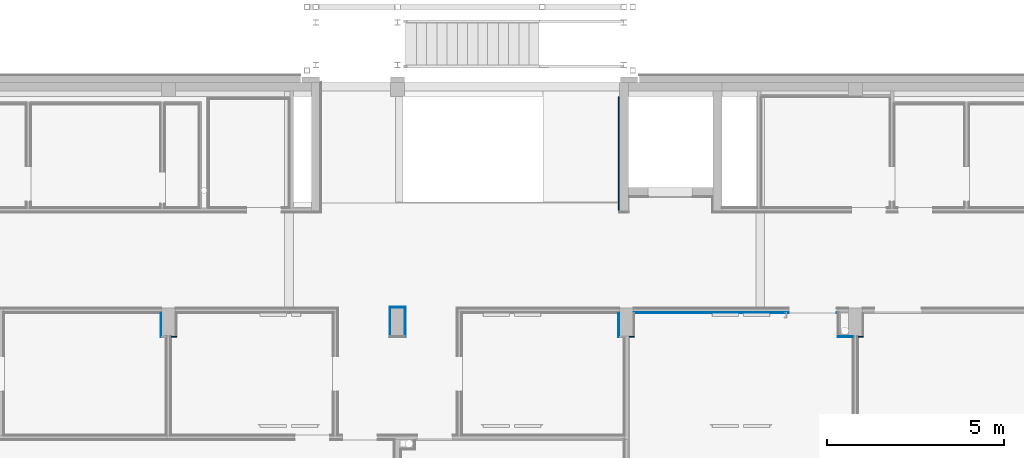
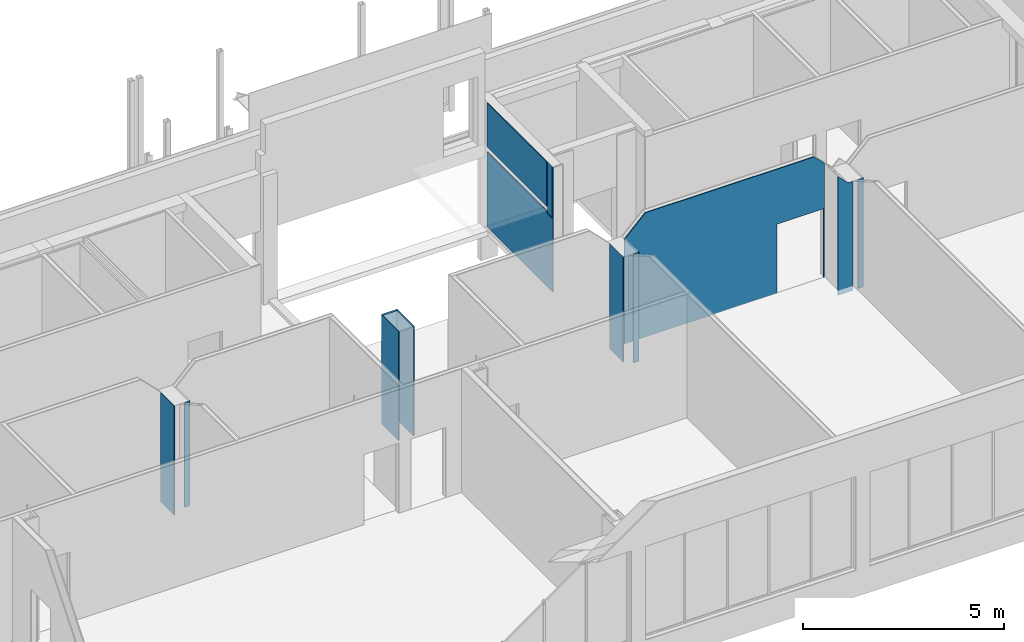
# One storey, part 29 of 29: 11 walls.
"""IFC2X3 building model written with IfcOpenShell, lengths in centimetres."""

from ifc_helpers import new_model, entity, si_unit, converted_unit, derived_unit, direction, frame, origin, place, context, subcontext, project, spatial, faceted_brep, material, layer, layer_set, type_object, element, save


model = new_model("IFC2X3")

# Units and contexts
model_context = context("Model", 3, precision=0.001, world=origin(), true_north=direction((6.12303176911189e-17, 1.0)))
body_context = subcontext(model_context, "Body", "Model", "MODEL_VIEW")
ifc_project = project(units=[si_unit("LENGTHUNIT", "METRE", prefix="CENTI"), si_unit("AREAUNIT", "SQUARE_METRE"), si_unit("VOLUMEUNIT", "CUBIC_METRE"), converted_unit("PLANEANGLEUNIT", "DEGREE", entity("IfcRatioMeasure", 0.0174532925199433), si_unit("PLANEANGLEUNIT", "RADIAN"), dimensions=[0, 0, 0, 0, 0, 0, 0]), si_unit("MASSUNIT", "GRAM", prefix="KILO"), derived_unit("MASSDENSITYUNIT", [(si_unit("MASSUNIT", "GRAM", prefix="KILO"), 1), (si_unit("LENGTHUNIT", "METRE"), -3)]), derived_unit("MOMENTOFINERTIAUNIT", [(si_unit("LENGTHUNIT", "METRE"), 4)]), si_unit("TIMEUNIT", "SECOND"), si_unit("FREQUENCYUNIT", "HERTZ"), si_unit("THERMODYNAMICTEMPERATUREUNIT", "DEGREE_CELSIUS"), derived_unit("THERMALTRANSMITTANCEUNIT", [(si_unit("MASSUNIT", "GRAM", prefix="KILO"), 1), (si_unit("THERMODYNAMICTEMPERATUREUNIT", "KELVIN"), -1), (si_unit("TIMEUNIT", "SECOND"), -3)]), derived_unit("VOLUMETRICFLOWRATEUNIT", [(si_unit("LENGTHUNIT", "METRE"), 3), (si_unit("TIMEUNIT", "SECOND"), -1)]), si_unit("ELECTRICCURRENTUNIT", "AMPERE"), si_unit("ELECTRICVOLTAGEUNIT", "VOLT"), si_unit("POWERUNIT", "WATT"), si_unit("FORCEUNIT", "NEWTON", prefix="KILO"), si_unit("ILLUMINANCEUNIT", "LUX"), si_unit("LUMINOUSFLUXUNIT", "LUMEN"), si_unit("LUMINOUSINTENSITYUNIT", "CANDELA"), derived_unit("USERDEFINED", [(si_unit("MASSUNIT", "GRAM", prefix="KILO"), -1), (si_unit("LENGTHUNIT", "METRE"), -2), (si_unit("TIMEUNIT", "SECOND"), 3), (si_unit("LUMINOUSFLUXUNIT", "LUMEN"), 1)]), derived_unit("LINEARVELOCITYUNIT", [(si_unit("LENGTHUNIT", "METRE"), 1), (si_unit("TIMEUNIT", "SECOND"), -1)]), si_unit("PRESSUREUNIT", "PASCAL"), derived_unit("USERDEFINED", [(si_unit("LENGTHUNIT", "METRE"), -2), (si_unit("MASSUNIT", "GRAM", prefix="KILO"), 1), (si_unit("TIMEUNIT", "SECOND"), -2)]), derived_unit("LINEARFORCEUNIT", [(si_unit("MASSUNIT", "GRAM", prefix="KILO"), 1), (si_unit("LENGTHUNIT", "METRE"), 1), (si_unit("TIMEUNIT", "SECOND"), -2), (si_unit("LENGTHUNIT", "METRE"), -1)]), derived_unit("PLANARFORCEUNIT", [(si_unit("MASSUNIT", "GRAM", prefix="KILO"), 1), (si_unit("LENGTHUNIT", "METRE"), 1), (si_unit("TIMEUNIT", "SECOND"), -2), (si_unit("LENGTHUNIT", "METRE"), -2)])], contexts=[model_context])

# Site, building, storey
site_placement = place(None, origin())
site = spatial("IfcSite", under=ifc_project, at=site_placement, Name="Default", CompositionType="ELEMENT")
building_placement = place(site_placement, origin())
building = spatial("IfcBuilding", under=site, at=building_placement, CompositionType="ELEMENT")
storey_placement = place(building_placement, frame((0.0, 0.0, 545.0)))
storey = spatial("IfcBuildingStorey", under=building, at=storey_placement, Name="Poziom 1K +5,45", CompositionType="ELEMENT", Elevation=544.999999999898)

# Walls
ifc_material = material(Name="Tynk gipsowy")
ifc_layer_1 = layer(ifc_material, 2.5)
ifc_layer_set_1 = layer_set([ifc_layer_1], Name="Ściana podstawowa:Ściana GK wykonczenie gr. 2,5cm")
wall_type_1 = type_object("IfcWallType", Name="Ściana podstawowa:Ściana GK wykonczenie gr. 2,5cm", PredefinedType="STANDARD", material=ifc_layer_set_1)
wall_1_placement = place(storey_placement, frame((-1616.76512060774, 1388.87745210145, 13.0)))
element("IfcWall", 1, at=wall_1_placement, inside=storey, type_object=wall_type_1, Name="Ściana podstawowa:Ściana GK wykonczenie gr. 2,5cm", ObjectType="Ściana podstawowa:Ściana GK wykonczenie gr. 2,5cm", context=body_context, shape_type="Brep", body=[
    faceted_brep([(0.0, -1.25000000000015, 0.0), (15.0, -1.25000000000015, 0.0), (15.0, -1.25000000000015, 319.499988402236), (13.9285830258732, -1.25000000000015, 318.428571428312), (0.0, -1.25000000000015, 318.428571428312), (15.0, 1.24999999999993, 0.0), (0.0, 1.24999999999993, 0.0), (0.0, 1.24999999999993, 317.0), (12.5000115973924, 1.24999999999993, 317.0), (15.0, 1.24999999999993, 319.499988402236)], [[[0, 1, 2, 3, 4]], [[5, 6, 7, 8, 9]], [[1, 0, 6, 5]], [[1, 5, 9, 2]], [[6, 0, 4, 7]], [[3, 8, 7, 4]], [[8, 3, 2, 9]]]),
])
wall_2_placement = place(storey_placement, frame((-355.515109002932, 1455.12745208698, 13.0), z_axis=(0.0, 0.0, 1.0), x_axis=(0.0, -1.0, 0.0)))
element("IfcWall", 2, at=wall_2_placement, inside=storey, type_object=wall_type_1, Name="Ściana podstawowa:Ściana GK wykonczenie gr. 2,5cm", ObjectType="Ściana podstawowa:Ściana GK wykonczenie gr. 2,5cm", context=body_context, shape_type="Brep", body=[
    faceted_brep([(0.0, -1.25000000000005, 0.0), (67.5, -1.25000000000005, 0.0), (67.5, -1.25000000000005, 319.500000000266), (0.0, -1.25000000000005, 319.500000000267), (67.5, 1.24999999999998, 0.0), (0.0, 1.24999999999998, 0.0), (0.0, 1.24999999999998, 317.0), (65.0, 1.24999999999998, 317.0), (67.5, 1.24999999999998, 318.428571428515), (67.5, -0.178571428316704, 318.428571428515)], [[[0, 1, 2, 3]], [[4, 5, 6, 7, 8]], [[1, 0, 5, 4]], [[1, 4, 8, 9, 2]], [[5, 0, 3, 6]], [[9, 7, 6, 3, 2]], [[7, 9, 8]]]),
])
wall_3_placement = place(storey_placement, frame((318.234879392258, 1388.87745208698, 0.0)))
element("IfcWall", 3, at=wall_3_placement, inside=storey, type_object=wall_type_1, Name="Ściana podstawowa:Ściana GK wykonczenie gr. 2,5cm", ObjectType="Ściana podstawowa:Ściana GK wykonczenie gr. 2,5cm", context=body_context, shape_type="Brep", body=[
    faceted_brep([(0.0, -1.25000000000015, 0.0), (15.0000115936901, -1.25000000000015, 0.0), (15.0000115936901, -1.25000000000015, 332.499999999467), (13.9285830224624, -1.25000000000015, 331.428571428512), (0.0, -1.25000000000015, 331.428571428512), (15.0000115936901, 1.24999999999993, 0.0), (0.0, 1.24999999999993, 0.0), (0.0, 1.24999999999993, 330.0), (12.5000115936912, 1.24999999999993, 330.0), (15.0000115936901, 1.24999999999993, 332.499999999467)], [[[0, 1, 2, 3, 4]], [[5, 6, 7, 8, 9]], [[1, 0, 6, 5]], [[1, 5, 9, 2]], [[6, 0, 4, 7]], [[3, 8, 7, 4]], [[8, 3, 2, 9]]]),
])
wall_4_placement = place(storey_placement, frame((303.234874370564, 1388.87745217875, 0.0), z_axis=(0.0, 0.0, 1.0), x_axis=(-1.0, 0.0, 0.0)))
element("IfcWall", 4, at=wall_4_placement, inside=storey, type_object=wall_type_1, Name="Ściana podstawowa:Ściana GK wykonczenie gr. 2,5cm", ObjectType="Ściana podstawowa:Ściana GK wykonczenie gr. 2,5cm", context=body_context, shape_type="Brep", body=[
    faceted_brep([(0.0, -1.25000000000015, 0.0), (42.5000007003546, -1.25000000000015, 0.0), (42.5000007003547, -1.25000000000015, 360.000017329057), (12.4999833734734, -1.25000000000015, 330.0), (0.0, -1.25000000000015, 330.0), (42.5000007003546, 1.24999999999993, 0.0), (0.0, 1.24999999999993, 0.0), (0.0, 1.24999999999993, 331.428571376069), (13.9285547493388, 1.24999999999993, 331.428571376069), (42.5000007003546, 1.24999999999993, 360.000017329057), (0.0, -1.24999997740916, 330.0), (12.4999833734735, -1.25000000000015, 330.0), (12.4999833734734, -1.24999990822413, 330.0)], [[[0, 1, 2, 3, 4]], [[5, 6, 7, 8, 9]], [[1, 0, 6, 5]], [[1, 5, 9, 2]], [[6, 0, 10, 7]], [[8, 11, 2, 9]], [[12, 8, 7, 10]]]),
])
wall_5_placement = place(storey_placement, frame((260.73487367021, 1456.37745208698, 13.0), z_axis=(0.0, 0.0, 1.0), x_axis=(-1.0, 0.0, 0.0)))
element("IfcWall", 5, at=wall_5_placement, inside=storey, type_object=wall_type_1, Name="Ściana podstawowa:Ściana GK wykonczenie gr. 2,5cm", ObjectType="Ściana podstawowa:Ściana GK wykonczenie gr. 2,5cm", context=body_context, shape_type="Brep", body=[
    faceted_brep([(137.499999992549, -1.25000000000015, 210.0), (137.499999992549, -1.25000000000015, 0.0), (574.999982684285, -1.25000000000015, 0.0), (574.999982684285, -1.25000000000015, 317.0), (514.999982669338, -1.25000000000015, 377.0), (29.9999826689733, -1.25000000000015, 377.0), (0.0, -1.25000000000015, 347.000017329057), (0.0, -1.25000000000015, 0.0), (2.49999999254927, -1.25000000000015, 0.0), (2.49999999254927, -1.25000000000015, 210.0), (137.499999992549, 1.24999999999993, 0.0), (137.499999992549, 1.24999999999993, 210.0), (2.49999999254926, 1.24999999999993, 210.0), (2.49999999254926, 1.24999999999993, 0.0), (0.0, 1.24999999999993, 0.0), (0.0, 1.24999999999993, 347.000017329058), (29.9999826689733, 1.24999999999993, 377.0), (514.999982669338, 1.24999999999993, 377.0), (574.999982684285, 1.24999999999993, 317.0), (574.999982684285, 1.24999999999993, 0.0)], [[[0, 1, 2, 3, 4, 5, 6, 7, 8, 9]], [[10, 11, 12, 13, 14, 15, 16, 17, 18, 19]], [[18, 3, 2, 19]], [[4, 17, 16, 5]], [[6, 15, 14, 7]], [[1, 0, 11, 10]], [[9, 8, 13, 12]], [[0, 9, 12, 11]], [[4, 3, 18, 17]], [[6, 5, 16, 15]], [[2, 1, 10, 19]], [[8, 7, 14, 13]]]),
])
wall_6_placement = place(storey_placement, frame((-311.765120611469, 1388.87745216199, 0.0), z_axis=(0.0, 0.0, 1.0), x_axis=(-1.0, 0.0, 0.0)))
element("IfcWall", 6, at=wall_6_placement, inside=storey, type_object=wall_type_1, Name="Ściana podstawowa:Ściana GK wykonczenie gr. 2,5cm", ObjectType="Ściana podstawowa:Ściana GK wykonczenie gr. 2,5cm", context=body_context, shape_type="Brep", body=[
    faceted_brep([(0.0, -1.25000000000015, 0.0), (15.0000115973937, -1.25000000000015, 0.0), (15.0000115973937, -1.25000000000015, 330.0), (2.49998840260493, -1.25000000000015, 330.0), (0.0, -1.25000000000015, 332.499988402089), (15.0000115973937, 1.24999999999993, 0.0), (0.0, 1.24999999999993, 0.0), (0.0, 1.24999999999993, 332.499988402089), (1.07141701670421, 1.24999999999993, 331.428571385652), (15.0000115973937, 1.24999999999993, 331.428571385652), (15.0000115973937, -1.25000000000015, 330.0), (2.49998840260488, -1.25000000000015, 330.0), (2.49998840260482, -1.24999992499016, 330.0)], [[[0, 1, 2, 3, 4]], [[5, 6, 7, 8, 9]], [[1, 0, 6, 5]], [[1, 5, 9, 10]], [[6, 0, 4, 7]], [[8, 11, 2, 9]], [[12, 8, 7, 4]]]),
])
wall_7_placement = place(storey_placement, frame((-1645.51512060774, 1387.62745210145, 0.0), z_axis=(0.0, 0.0, 1.0), x_axis=(0.0, 1.0, 0.0)))
element("IfcWall", 7, at=wall_7_placement, inside=storey, type_object=wall_type_1, Name="Ściana podstawowa:Ściana GK wykonczenie gr. 2,5cm", ObjectType="Ściana podstawowa:Ściana GK wykonczenie gr. 2,5cm", context=body_context, shape_type="Brep", body=[
    faceted_brep([(0.0, -1.25000000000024, 0.0), (2.50000000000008, -1.25000000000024, 0.0), (67.4999999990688, -1.25000000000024, 0.0), (67.4999999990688, -1.25000000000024, 330.0), (2.50000000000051, -1.25000000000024, 330.0), (0.0, -1.25000000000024, 331.428571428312), (67.4999999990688, 1.24999999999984, 0.0), (0.0, 1.24999999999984, 0.0), (0.0, 1.24999999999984, 332.500000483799), (67.4999999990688, 1.24999999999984, 332.500000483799), (0.0, 0.178571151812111, 331.428571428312)], [[[0, 1, 2, 3, 4, 5]], [[6, 7, 8, 9]], [[2, 1, 0, 7, 6]], [[2, 6, 9, 3]], [[7, 0, 5, 10, 8]], [[10, 4, 3, 9, 8]], [[4, 10, 5]]]),
])
ifc_layer_2 = layer(ifc_material, 2.5)
ifc_layer_set_2 = layer_set([ifc_layer_2], Name="Ściana podstawowa:Tynk wykończenie gr. 2,5cm")
wall_type_2 = type_object("IfcWallType", Name="Ściana podstawowa:Tynk wykończenie gr. 2,5cm", PredefinedType="STANDARD", material=ifc_layer_set_2)
wall_8_placement = place(storey_placement, frame((-355.515111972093, 2065.12745205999, 13.0), z_axis=(0.0, 0.0, 1.0), x_axis=(0.0, -1.0, 0.0)))
element("IfcWall", 8, at=wall_8_placement, inside=storey, type_object=wall_type_2, Name="Ściana podstawowa:Tynk wykończenie gr. 2,5cm", ObjectType="Ściana podstawowa:Tynk wykończenie gr. 2,5cm", context=body_context, shape_type="Brep", body=[
    faceted_brep([(0.0, -1.24999999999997, 0.0), (327.0, -1.24999999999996, 0.0), (327.0, -1.24999999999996, 377.0), (322.0, -1.24999999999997, 377.0), (322.0, -1.24999999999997, 222.0), (297.0, -1.24999999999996, 222.0), (297.0, -1.24999999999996, 228.0), (0.0, -1.24999999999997, 228.0), (327.0, 1.25000000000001, 0.0), (0.0, 1.25000000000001, 0.0), (0.0, 1.25000000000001, 228.0), (297.0, 1.25000000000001, 228.0), (297.0, 1.25000000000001, 243.0), (0.0, 1.25000000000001, 243.0), (0.0, 1.25000000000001, 377.0), (327.0, 1.25000000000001, 377.0), (0.0, -1.24999999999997, 377.0), (297.0, -1.24999999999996, 377.0), (297.0, 1.01206022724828, 377.0), (322.0, 1.01206022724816, 377.0), (297.0, -1.25000000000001, 228.0), (297.0, 1.01206022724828, 228.0), (297.0, -1.24999999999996, 243.0), (0.0, -1.24999999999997, 243.0), (297.0, 1.01206022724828, 243.0), (297.0, 1.01206022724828, 243.0), (297.0, 1.01206022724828, 222.0), (322.0, 1.01206022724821, 222.0), (297.0, 1.01206022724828, 228.0), (297.0, -1.25000000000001, 243.0)], [[[0, 1, 2, 3, 4, 5, 6, 7]], [[8, 9, 10, 11, 12, 13, 14, 15]], [[1, 0, 9, 8]], [[2, 1, 8, 15]], [[15, 14, 16, 17, 18, 19, 3, 2]], [[9, 0, 7, 10]], [[7, 20, 21, 11, 10]], [[22, 23, 13, 12, 24]], [[12, 11, 21, 25]], [[26, 27, 19, 18, 25, 21]], [[19, 27, 4, 3]], [[27, 26, 5, 4]], [[26, 28, 20, 5]], [[25, 18, 17, 29]], [[16, 14, 13, 23]], [[16, 23, 29, 17]]]),
])
wall_9_placement = place(storey_placement, frame((-1000.51510901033, 1472.62745208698, 0.0), z_axis=(0.0, 0.0, 1.0), x_axis=(0.0, -1.0, 0.0)))
element("IfcWall", 9, at=wall_9_placement, inside=storey, type_object=wall_type_2, Name="Ściana podstawowa:Tynk wykończenie gr. 2,5cm", ObjectType="Ściana podstawowa:Tynk wykończenie gr. 2,5cm", context=body_context, shape_type="Brep", body=[
    faceted_brep([(0.0, -1.25000000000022, 0.0), (85.0, -1.25000000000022, 0.0), (85.0, -1.25000000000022, 332.499988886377), (0.41667591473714, -1.25000000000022, 332.499988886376), (0.0, -1.25000000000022, 333.0), (85.0, 1.24999999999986, 0.0), (82.4999999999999, 1.24999999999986, 0.0), (2.50000000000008, 1.24999999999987, 0.0), (0.0, 1.24999999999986, 0.0), (0.0, 1.24999999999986, 333.0), (2.49999998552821, 1.24999999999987, 329.999988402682), (82.5000000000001, 1.24999999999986, 330.0), (85.0, 1.24999999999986, 331.428571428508), (85.0, -0.178582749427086, 331.428571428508), (2.49999998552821, 1.24999999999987, 330.0), (2.49999998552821, 1.24998840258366, 330.0), (82.5000000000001, 1.24999999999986, 329.999988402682), (82.5000000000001, 1.24998840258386, 330.0)], [[[0, 1, 2, 3, 4]], [[5, 6, 7, 8, 9, 10, 11, 12]], [[1, 0, 8, 7, 6, 5]], [[8, 0, 4, 9]], [[1, 5, 12, 13, 2]], [[3, 14, 9, 4]], [[15, 3, 2, 13, 16]], [[17, 13, 12]]]),
])
wall_10_placement = place(storey_placement, frame((-958.013995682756, 1387.62745208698, 0.0), z_axis=(0.0, 0.0, 1.0), x_axis=(0.0, 1.0, 0.0)))
element("IfcWall", 10, at=wall_10_placement, inside=storey, type_object=wall_type_2, Name="Ściana podstawowa:Tynk wykończenie gr. 2,5cm", ObjectType="Ściana podstawowa:Tynk wykończenie gr. 2,5cm", context=body_context, shape_type="Brep", body=[
    faceted_brep([(0.0, -1.2499999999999, 0.0), (82.5000000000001, -1.2499999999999, 0.0), (82.5000000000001, -1.2499999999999, 332.501113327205), (0.0, -1.2499999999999, 332.501113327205), (82.5000000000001, 1.25000000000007, 0.0), (2.50000000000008, 1.25000000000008, 0.0), (0.0, 1.25000000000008, 0.0), (0.0, 1.25000000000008, 331.428571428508), (2.50000000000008, 1.25000000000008, 330.001113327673), (82.5000000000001, 1.25000000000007, 330.0), (82.5000000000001, 1.25055666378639, 330.000556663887), (0.0, -0.177458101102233, 331.428571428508), (2.49999999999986, 1.25000000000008, 330.0), (2.50000000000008, 1.25111332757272, 330.0), (82.5000000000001, 1.25000000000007, 330.001113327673)], [[[0, 1, 2, 3]], [[4, 5, 6, 7, 8, 9]], [[1, 0, 6, 5, 4]], [[1, 4, 10, 2]], [[6, 0, 3, 11, 7]], [[11, 12, 7]], [[13, 11, 3, 2, 14]]]),
])
wall_11_placement = place(storey_placement, frame((-956.763995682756, 1471.37745208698, 0.0), z_axis=(0.0, 0.0, 1.0), x_axis=(-1.0, 0.0, 0.0)))
element("IfcWall", 11, at=wall_11_placement, inside=storey, type_object=wall_type_2, Name="Ściana podstawowa:Tynk wykończenie gr. 2,5cm", ObjectType="Ściana podstawowa:Tynk wykończenie gr. 2,5cm", context=body_context, shape_type="Brep", body=[
    faceted_brep([(0.0, -1.25000000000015, 0.0), (42.5011133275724, -1.25000000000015, 0.0), (42.5011133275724, -1.25000000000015, 333.0), (0.0, -1.25000000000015, 333.0), (42.5011133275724, 1.24999999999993, 0.0), (2.49999999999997, 1.24999999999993, 0.0), (0.0, 1.24999999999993, 0.0), (0.0, 1.24999999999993, 332.501113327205), (2.50111332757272, 1.24999999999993, 330.0), (42.5011133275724, 1.24999999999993, 330.0), (0.0, -0.834261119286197, 332.501113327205)], [[[0, 1, 2, 3]], [[4, 5, 6, 7, 8, 9]], [[1, 0, 6, 5, 4]], [[1, 4, 9, 2]], [[6, 0, 3, 10, 7]], [[8, 10, 3, 2, 9]], [[10, 8, 7]]]),
])

save(model, "model.ifc")
